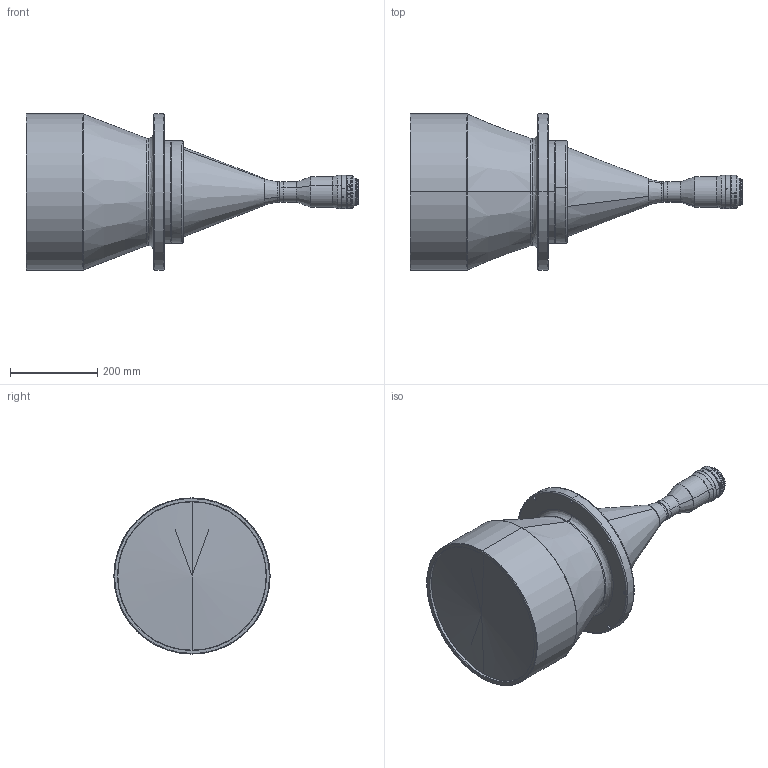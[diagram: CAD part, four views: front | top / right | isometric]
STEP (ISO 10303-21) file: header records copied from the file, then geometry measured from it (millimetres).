
FILE_DESCRIPTION (( 'STEP AP203' ), '1' );
FILE_NAME ('DTCM35FH-300S-M58-AL.STEP', '2023-11-22T09:46:15', ( '' ), ( '' ), 'SwSTEP 2.0', 'SolidWorks 2017', '' );
FILE_SCHEMA (( 'CONFIG_CONTROL_DESIGN' ));
Length unit declared in the file: millimetre
Products named in the file (1): DTCM35FH-300S-M58-AL
Bounding box: 761.3 x 358 x 358 mm (x, y, z)
Volume: 31959481.3 mm3; surface area: 724826.3 mm2
Topology: 1 solids, 6 shells, 180 faces, 409 edges, 252 vertices
Faces by surface type: cylinder 74, cone 58, plane 24, bspline 22, torus 2
Entity records: 6554 total; most frequent: CARTESIAN_POINT 2550, DIRECTION 831, ORIENTED_EDGE 810, EDGE_CURVE 405, AXIS2_PLACEMENT_3D 353, VERTEX_POINT 252, EDGE_LOOP 213, CIRCLE 194
